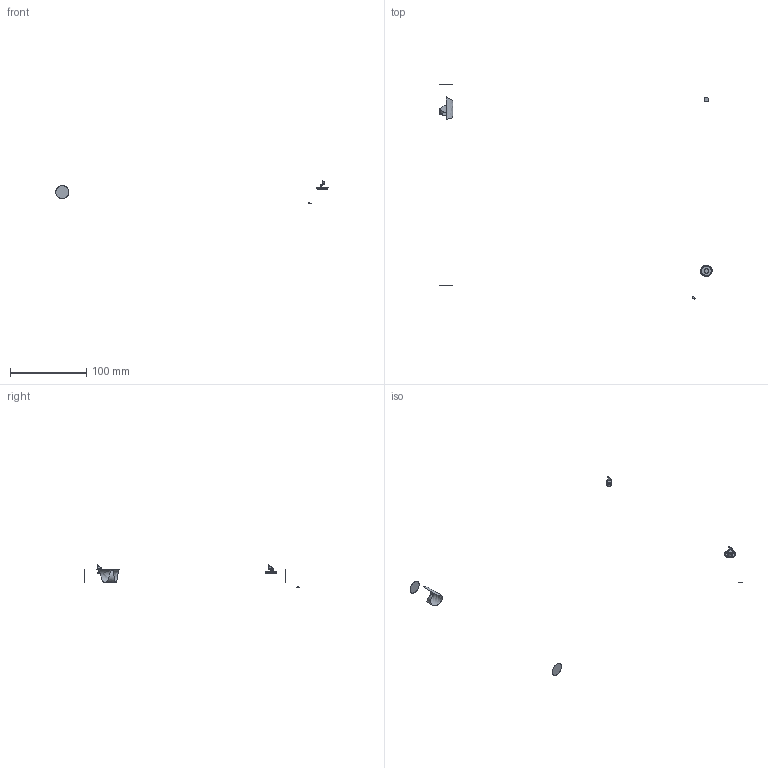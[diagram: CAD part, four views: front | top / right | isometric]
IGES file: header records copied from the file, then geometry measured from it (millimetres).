
Global section: file name: /Volumes/Documenti/lavoro/DATI_archivio 1/SITO ALTHEA CERAMICA/2022/SCHEDE PRODOTTO/COVER RIMLESS PLUSTON/Cover Plus+ton_copriwc.igs; preprocessor: Trout Lake IGES 012 Jun 21 2016; date: 220428.104126; units: millimetre
Bounding box: 357.09 x 281.41 x 30.4 mm (x, y, z)
Surface area: 1652.3 mm2 (no closed solid volume)
Topology: 0 solids, 0 shells, 22 faces, 223 edges, 216 vertices
Faces by surface type: bspline 22
